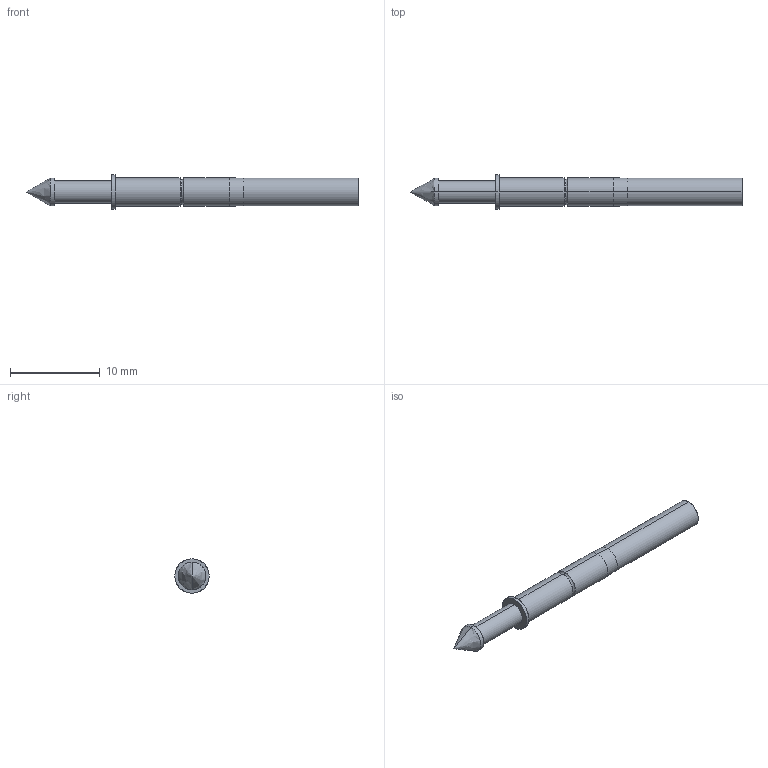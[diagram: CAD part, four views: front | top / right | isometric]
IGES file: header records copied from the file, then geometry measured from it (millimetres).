
Start section: SolidWorks IGES file using analytic representation for surfaces
Global section: file name: O:\PYLON\IGES FILES\P2550\P2550-0.IGS; native system: SolidWorks 2015; preprocessor: SolidWorks 2015; author: kgolden; date: 171020.105813; units: inch
Bounding box: 36.91 x 3.81 x 3.81 mm (x, y, z)
Surface area: 422.4 mm2 (no closed solid volume)
Topology: 0 solids, 0 shells, 30 faces, 416 edges, 412 vertices
Faces by surface type: revolution 18, bspline 12
